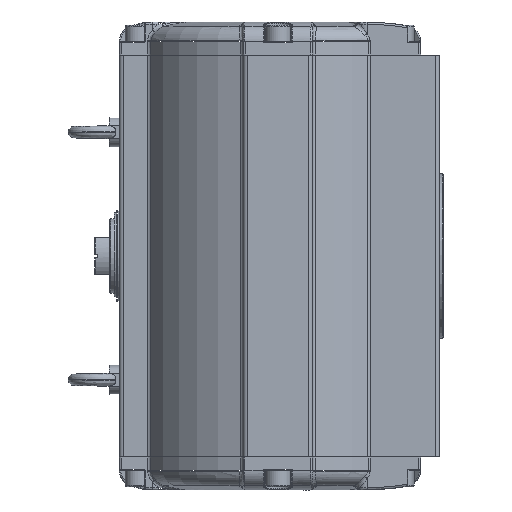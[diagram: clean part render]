
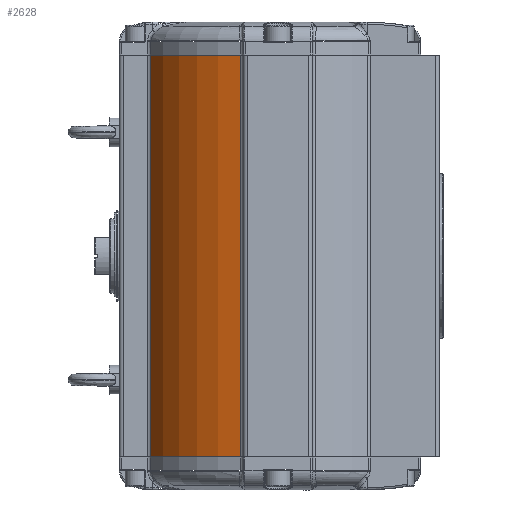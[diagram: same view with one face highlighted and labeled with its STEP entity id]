
A CAD part, left-side view. The second image highlights one B-rep face of the part: STEP entity #2628.
In plain terms, the highlighted cylindrical face has radius 172.5 mm (diameter 345 mm), a partial arc.
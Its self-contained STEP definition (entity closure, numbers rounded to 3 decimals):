
#767=CARTESIAN_POINT('',(-77.746,158.986,243.5));
#768=VERTEX_POINT('',#767);
#776=CARTESIAN_POINT('',(-166.343,50.676,243.5));
#777=VERTEX_POINT('',#776);
#778=CARTESIAN_POINT('',(0.0,5.,243.5));
#779=DIRECTION('',(0.0,0.0,-1.0));
#780=DIRECTION('',(-0.435,0.901,0.0));
#781=AXIS2_PLACEMENT_3D('',#778,#779,#780);
#782=CIRCLE('',#781,172.5);
#783=EDGE_CURVE('',#777,#768,#782,.T.);
#1345=CARTESIAN_POINT('',(-166.343,50.676,-243.5));
#1346=VERTEX_POINT('',#1345);
#1354=CARTESIAN_POINT('',(-77.746,158.986,-243.5));
#1355=VERTEX_POINT('',#1354);
#1356=CARTESIAN_POINT('',(0.0,5.,-243.5));
#1357=DIRECTION('',(0.0,0.0,1.0));
#1358=DIRECTION('',(-0.435,0.901,0.0));
#1359=AXIS2_PLACEMENT_3D('',#1356,#1357,#1358);
#1360=CIRCLE('',#1359,172.5);
#1361=EDGE_CURVE('',#1355,#1346,#1360,.T.);
#2579=CARTESIAN_POINT('',(-166.343,50.676,243.5));
#2580=DIRECTION('',(0.0,0.0,-1.0));
#2581=VECTOR('',#2580,487.0);
#2582=LINE('',#2579,#2581);
#2583=EDGE_CURVE('',#777,#1346,#2582,.T.);
#2606=CARTESIAN_POINT('',(-77.746,158.986,-243.5));
#2607=DIRECTION('',(0.0,0.0,1.0));
#2608=VECTOR('',#2607,487.0);
#2609=LINE('',#2606,#2608);
#2610=EDGE_CURVE('',#1355,#768,#2609,.T.);
#2617=CARTESIAN_POINT('',(0.0,5.,0.0));
#2618=DIRECTION('',(0.0,0.0,1.0));
#2619=DIRECTION('',(-0.435,0.901,0.0));
#2620=AXIS2_PLACEMENT_3D('',#2617,#2618,#2619);
#2621=CYLINDRICAL_SURFACE('',#2620,172.5);
#2622=ORIENTED_EDGE('',*,*,#2583,.F.);
#2623=ORIENTED_EDGE('',*,*,#783,.T.);
#2624=ORIENTED_EDGE('',*,*,#2610,.F.);
#2625=ORIENTED_EDGE('',*,*,#1361,.T.);
#2626=EDGE_LOOP('',(#2622,#2623,#2624,#2625));
#2627=FACE_OUTER_BOUND('',#2626,.T.);
#2628=ADVANCED_FACE('',(#2627),#2621,.T.);
